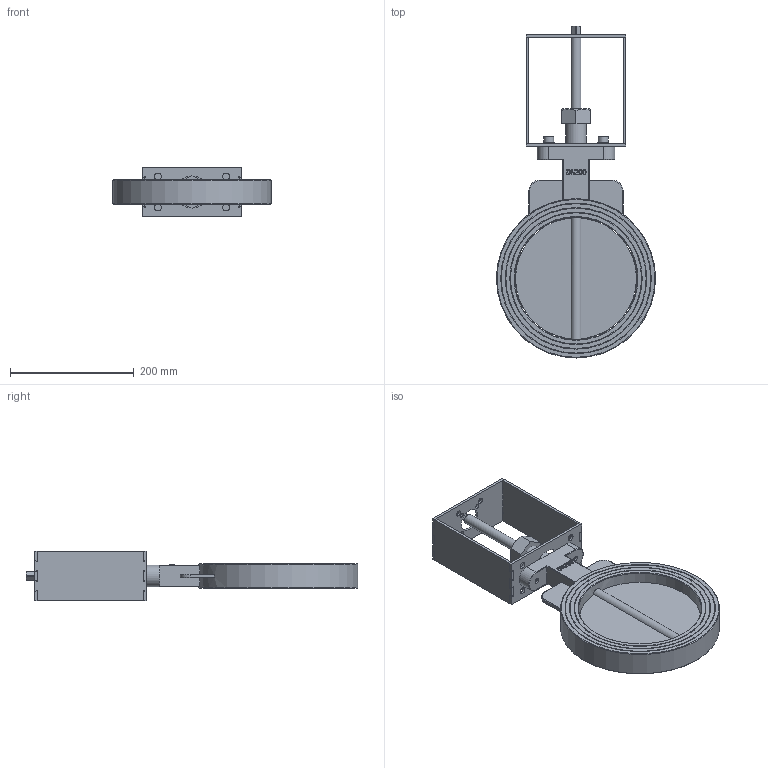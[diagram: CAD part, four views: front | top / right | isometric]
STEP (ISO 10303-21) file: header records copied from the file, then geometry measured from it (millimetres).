
FILE_DESCRIPTION(/* description */ (''),/* implementation_level */ '2;1');
FILE_NAME(/* name */ 'C:\Users\miv\Desktop\Typ 5k DN200\Typ 5k DN200.stp',/* time_stamp */ '2015-09-16T09:56:38+02:00',/* author */ ('Technik-3D'),/* organization */ (''),/* preprocessor_version */ 'ST-DEVELOPER v15.6',/* originating_system */ 'Autodesk Inventor 2015',/* authorisation */ '');
FILE_SCHEMA (('AUTOMOTIVE_DESIGN { 1 0 10303 214 3 1 1 }'));
Length unit declared in the file: millimetre
Products named in the file (13): Gussring DN200; Welle DN200; Oberteil Konsole F05, F07, ST; Seitenteil F05, F07; Unterteil Konsole F04,05,07 (5k200-R4-STP); Konsole F05-07; Stopfbuchse d=16 MS; Graphitbuchse d=16; ISO 49 Kappe T1 1; DN200 Ronde; DIN 912 - M10 x 1,5 x 25 x 21,25; DIN 127 - A 10; Typ 5k DN200
Bounding box: 257 x 536 x 80 mm (x, y, z)
Volume: 1489408.7 mm3; surface area: 372468.7 mm2
Topology: 14 solids, 14 shells, 392 faces, 985 edges, 648 vertices
Faces by surface type: plane 205, cylinder 108, bspline 43, cone 26, torus 10
Full cylindrical faces by diameter (mm): 7 x4, 8.376 x2, 9 x4, 10 x2, 11 x4, 12 x2, 16 x4, 16.5 x3, 18 x1, 22.5 x1, 23 x2, 25 x1, 33 x1, 37 x1, 52 x1, 195.5 x1, 198 x1, 211.75 x2, 213.75 x2, 226.5 x2, 228.5 x2, 241.25 x2, 243.25 x2, 257 x1
Entity records: 10480 total; most frequent: CARTESIAN_POINT 2427, ORIENTED_EDGE 1532, DIRECTION 1519, EDGE_CURVE 766, AXIS2_PLACEMENT_3D 547, VERTEX_POINT 539, EDGE_LOOP 479, LINE 425
